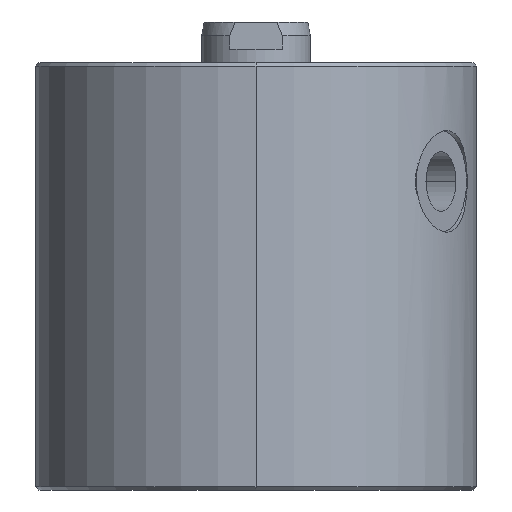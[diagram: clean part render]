
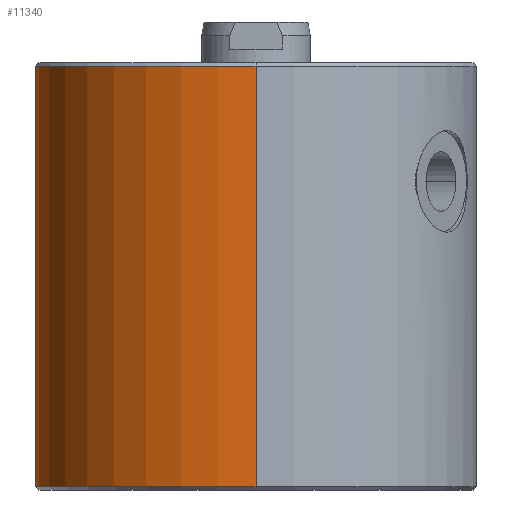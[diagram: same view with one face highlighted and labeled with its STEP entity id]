
A CAD part, left-side view. The second image highlights one B-rep face of the part: STEP entity #11340.
In plain terms, the highlighted cylindrical face has radius 32.5 mm (diameter 65 mm), a partial arc.
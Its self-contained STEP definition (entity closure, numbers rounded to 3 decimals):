
#910 = ORIENTED_EDGE ( 'NONE', *, *, #8894, .F. ) ;
#1289 = VECTOR ( 'NONE', #3637, 1000. ) ;
#1409 = AXIS2_PLACEMENT_3D ( 'NONE', #12966, #5071, #14304 ) ;
#1940 = VERTEX_POINT ( 'NONE', #10550 ) ;
#2989 = ORIENTED_EDGE ( 'NONE', *, *, #6558, .T. ) ;
#3362 = EDGE_CURVE ( 'NONE', #11456, #12620, #11805, .T. ) ;
#3637 = DIRECTION ( 'NONE',  ( 0., 0., -1. ) ) ;
#3818 = EDGE_LOOP ( 'NONE', ( #4615, #6825, #2989, #910 ) ) ;
#3979 = DIRECTION ( 'NONE',  ( 0., 0., -1. ) ) ;
#4606 = AXIS2_PLACEMENT_3D ( 'NONE', #7744, #16975, #9084 ) ;
#4615 = ORIENTED_EDGE ( 'NONE', *, *, #7220, .T. ) ;
#4961 = AXIS2_PLACEMENT_3D ( 'NONE', #15866, #3979, #14579 ) ;
#5071 = DIRECTION ( 'NONE',  ( 0., 0., 1. ) ) ;
#5925 = LINE ( 'NONE', #6123, #12535 ) ;
#6123 = CARTESIAN_POINT ( 'NONE',  ( -32.5, 0., 63. ) ) ;
#6558 = EDGE_CURVE ( 'NONE', #12620, #1940, #10626, .T. ) ;
#6825 = ORIENTED_EDGE ( 'NONE', *, *, #3362, .T. ) ;
#6932 = VERTEX_POINT ( 'NONE', #15021 ) ;
#7220 = EDGE_CURVE ( 'NONE', #6932, #11456, #9400, .T. ) ;
#7452 = DIRECTION ( 'NONE',  ( 0., 0., -1. ) ) ;
#7676 = CARTESIAN_POINT ( 'NONE',  ( 32.5, 0., 0.5 ) ) ;
#7744 = CARTESIAN_POINT ( 'NONE',  ( 0., 0., 62.5 ) ) ;
#8894 = EDGE_CURVE ( 'NONE', #6932, #1940, #5925, .T. ) ;
#9084 = DIRECTION ( 'NONE',  ( 1., 0., 0. ) ) ;
#9400 = CIRCLE ( 'NONE', #4606, 32.5 ) ;
#10550 = CARTESIAN_POINT ( 'NONE',  ( -32.5, 0., 0.5 ) ) ;
#10626 = CIRCLE ( 'NONE', #1409, 32.5 ) ;
#11340 = ADVANCED_FACE ( 'Face1', ( #11716 ), #14801, .T. ) ;
#11456 = VERTEX_POINT ( 'NONE', #13296 ) ;
#11519 = CARTESIAN_POINT ( 'NONE',  ( 32.5, 0., 63. ) ) ;
#11716 = FACE_OUTER_BOUND ( 'NONE', #3818, .T. ) ;
#11805 = LINE ( 'NONE', #11519, #1289 ) ;
#12535 = VECTOR ( 'NONE', #7452, 1000. ) ;
#12620 = VERTEX_POINT ( 'NONE', #7676 ) ;
#12966 = CARTESIAN_POINT ( 'NONE',  ( 0., 0., 0.5 ) ) ;
#13296 = CARTESIAN_POINT ( 'NONE',  ( 32.5, 0., 62.5 ) ) ;
#14304 = DIRECTION ( 'NONE',  ( 1., 0., 0. ) ) ;
#14579 = DIRECTION ( 'NONE',  ( -1., 0., 0. ) ) ;
#14801 = CYLINDRICAL_SURFACE ( 'NONE', #4961, 32.5 ) ;
#15021 = CARTESIAN_POINT ( 'NONE',  ( -32.5, 0., 62.5 ) ) ;
#15866 = CARTESIAN_POINT ( 'NONE',  ( 0., 0., 63. ) ) ;
#16975 = DIRECTION ( 'NONE',  ( 0., 0., -1. ) ) ;
